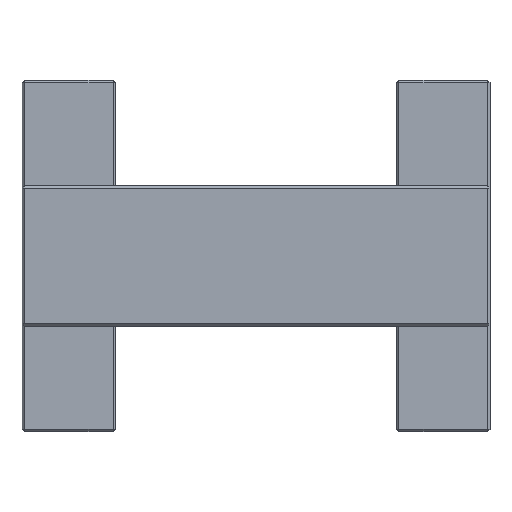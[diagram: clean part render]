
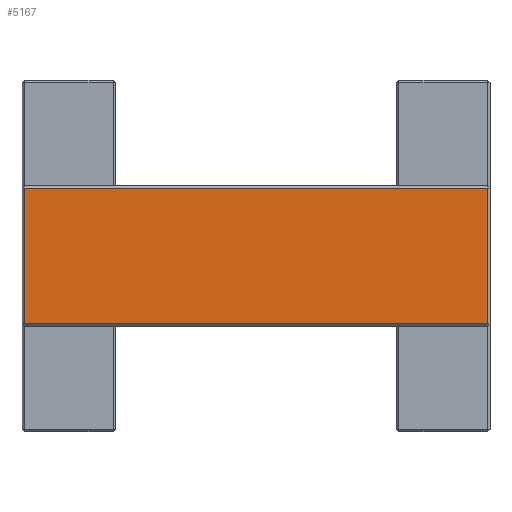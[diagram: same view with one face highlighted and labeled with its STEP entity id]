
A CAD part, top view. The second image highlights one B-rep face of the part: STEP entity #5167.
In plain terms, the highlighted planar face has unit normal (0, 0, 1).
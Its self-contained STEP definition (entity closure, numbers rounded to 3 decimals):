
#4458 = PLANE('',#4459);
#4459 = AXIS2_PLACEMENT_3D('',#4460,#4461,#4462);
#4460 = CARTESIAN_POINT('',(1.,90.,71.));
#4461 = DIRECTION('',(0.707,0.,-0.707));
#4462 = DIRECTION('',(0.,1.,0.));
#4796 = VERTEX_POINT('',#4797);
#4797 = CARTESIAN_POINT('',(2.,92.,72.));
#4820 = VERTEX_POINT('',#4821);
#4821 = CARTESIAN_POINT('',(2.,208.,72.));
#4842 = EDGE_CURVE('',#4796,#4820,#4843,.T.);
#4843 = SURFACE_CURVE('',#4844,(#4848,#4855),.PCURVE_S1.);
#4844 = LINE('',#4845,#4846);
#4845 = CARTESIAN_POINT('',(2.,90.,72.));
#4846 = VECTOR('',#4847,1.);
#4847 = DIRECTION('',(0.,1.,0.));
#4848 = PCURVE('',#4458,#4849);
#4849 = DEFINITIONAL_REPRESENTATION('',(#4850),#4854);
#4850 = LINE('',#4851,#4852);
#4851 = CARTESIAN_POINT('',(0.,1.414));
#4852 = VECTOR('',#4853,1.);
#4853 = DIRECTION('',(1.,0.));
#4854 = ( GEOMETRIC_REPRESENTATION_CONTEXT(2) 
PARAMETRIC_REPRESENTATION_CONTEXT() REPRESENTATION_CONTEXT('2D SPACE',''
  ) );
#4855 = PCURVE('',#4856,#4861);
#4856 = PLANE('',#4857);
#4857 = AXIS2_PLACEMENT_3D('',#4858,#4859,#4860);
#4858 = CARTESIAN_POINT('',(0.,90.,72.));
#4859 = DIRECTION('',(0.,0.,1.));
#4860 = DIRECTION('',(1.,0.,0.));
#4861 = DEFINITIONAL_REPRESENTATION('',(#4862),#4866);
#4862 = LINE('',#4863,#4864);
#4863 = CARTESIAN_POINT('',(2.,0.));
#4864 = VECTOR('',#4865,1.);
#4865 = DIRECTION('',(0.,1.));
#4866 = ( GEOMETRIC_REPRESENTATION_CONTEXT(2) 
PARAMETRIC_REPRESENTATION_CONTEXT() REPRESENTATION_CONTEXT('2D SPACE',''
  ) );
#4889 = PLANE('',#4890);
#4890 = AXIS2_PLACEMENT_3D('',#4891,#4892,#4893);
#4891 = CARTESIAN_POINT('',(0.,91.,71.));
#4892 = DIRECTION('',(0.,0.707,-0.707));
#4893 = DIRECTION('',(-1.,-0.,-0.));
#4943 = PLANE('',#4944);
#4944 = AXIS2_PLACEMENT_3D('',#4945,#4946,#4947);
#4945 = CARTESIAN_POINT('',(0.,209.,71.));
#4946 = DIRECTION('',(0.,0.707,0.707));
#4947 = DIRECTION('',(-1.,-0.,0.));
#5103 = PLANE('',#5104);
#5104 = AXIS2_PLACEMENT_3D('',#5105,#5106,#5107);
#5105 = CARTESIAN_POINT('',(399.,90.,71.));
#5106 = DIRECTION('',(0.707,0.,0.707));
#5107 = DIRECTION('',(-0.,1.,0.));
#5167 = ADVANCED_FACE('',(#5168),#4856,.T.);
#5168 = FACE_BOUND('',#5169,.T.);
#5169 = EDGE_LOOP('',(#5170,#5171,#5194,#5217));
#5170 = ORIENTED_EDGE('',*,*,#4842,.F.);
#5171 = ORIENTED_EDGE('',*,*,#5172,.T.);
#5172 = EDGE_CURVE('',#4796,#5173,#5175,.T.);
#5173 = VERTEX_POINT('',#5174);
#5174 = CARTESIAN_POINT('',(398.,92.,72.));
#5175 = SURFACE_CURVE('',#5176,(#5180,#5187),.PCURVE_S1.);
#5176 = LINE('',#5177,#5178);
#5177 = CARTESIAN_POINT('',(0.,92.,72.));
#5178 = VECTOR('',#5179,1.);
#5179 = DIRECTION('',(1.,0.,0.));
#5180 = PCURVE('',#4856,#5181);
#5181 = DEFINITIONAL_REPRESENTATION('',(#5182),#5186);
#5182 = LINE('',#5183,#5184);
#5183 = CARTESIAN_POINT('',(0.,2.));
#5184 = VECTOR('',#5185,1.);
#5185 = DIRECTION('',(1.,0.));
#5186 = ( GEOMETRIC_REPRESENTATION_CONTEXT(2) 
PARAMETRIC_REPRESENTATION_CONTEXT() REPRESENTATION_CONTEXT('2D SPACE',''
  ) );
#5187 = PCURVE('',#4889,#5188);
#5188 = DEFINITIONAL_REPRESENTATION('',(#5189),#5193);
#5189 = LINE('',#5190,#5191);
#5190 = CARTESIAN_POINT('',(-0.,1.414));
#5191 = VECTOR('',#5192,1.);
#5192 = DIRECTION('',(-1.,0.));
#5193 = ( GEOMETRIC_REPRESENTATION_CONTEXT(2) 
PARAMETRIC_REPRESENTATION_CONTEXT() REPRESENTATION_CONTEXT('2D SPACE',''
  ) );
#5194 = ORIENTED_EDGE('',*,*,#5195,.T.);
#5195 = EDGE_CURVE('',#5173,#5196,#5198,.T.);
#5196 = VERTEX_POINT('',#5197);
#5197 = CARTESIAN_POINT('',(398.,208.,72.));
#5198 = SURFACE_CURVE('',#5199,(#5203,#5210),.PCURVE_S1.);
#5199 = LINE('',#5200,#5201);
#5200 = CARTESIAN_POINT('',(398.,90.,72.));
#5201 = VECTOR('',#5202,1.);
#5202 = DIRECTION('',(0.,1.,0.));
#5203 = PCURVE('',#4856,#5204);
#5204 = DEFINITIONAL_REPRESENTATION('',(#5205),#5209);
#5205 = LINE('',#5206,#5207);
#5206 = CARTESIAN_POINT('',(398.,0.));
#5207 = VECTOR('',#5208,1.);
#5208 = DIRECTION('',(0.,1.));
#5209 = ( GEOMETRIC_REPRESENTATION_CONTEXT(2) 
PARAMETRIC_REPRESENTATION_CONTEXT() REPRESENTATION_CONTEXT('2D SPACE',''
  ) );
#5210 = PCURVE('',#5103,#5211);
#5211 = DEFINITIONAL_REPRESENTATION('',(#5212),#5216);
#5212 = LINE('',#5213,#5214);
#5213 = CARTESIAN_POINT('',(0.,1.414));
#5214 = VECTOR('',#5215,1.);
#5215 = DIRECTION('',(1.,0.));
#5216 = ( GEOMETRIC_REPRESENTATION_CONTEXT(2) 
PARAMETRIC_REPRESENTATION_CONTEXT() REPRESENTATION_CONTEXT('2D SPACE',''
  ) );
#5217 = ORIENTED_EDGE('',*,*,#5218,.F.);
#5218 = EDGE_CURVE('',#4820,#5196,#5219,.T.);
#5219 = SURFACE_CURVE('',#5220,(#5224,#5231),.PCURVE_S1.);
#5220 = LINE('',#5221,#5222);
#5221 = CARTESIAN_POINT('',(0.,208.,72.));
#5222 = VECTOR('',#5223,1.);
#5223 = DIRECTION('',(1.,0.,0.));
#5224 = PCURVE('',#4856,#5225);
#5225 = DEFINITIONAL_REPRESENTATION('',(#5226),#5230);
#5226 = LINE('',#5227,#5228);
#5227 = CARTESIAN_POINT('',(0.,118.));
#5228 = VECTOR('',#5229,1.);
#5229 = DIRECTION('',(1.,0.));
#5230 = ( GEOMETRIC_REPRESENTATION_CONTEXT(2) 
PARAMETRIC_REPRESENTATION_CONTEXT() REPRESENTATION_CONTEXT('2D SPACE',''
  ) );
#5231 = PCURVE('',#4943,#5232);
#5232 = DEFINITIONAL_REPRESENTATION('',(#5233),#5237);
#5233 = LINE('',#5234,#5235);
#5234 = CARTESIAN_POINT('',(-0.,1.414));
#5235 = VECTOR('',#5236,1.);
#5236 = DIRECTION('',(-1.,0.));
#5237 = ( GEOMETRIC_REPRESENTATION_CONTEXT(2) 
PARAMETRIC_REPRESENTATION_CONTEXT() REPRESENTATION_CONTEXT('2D SPACE',''
  ) );
